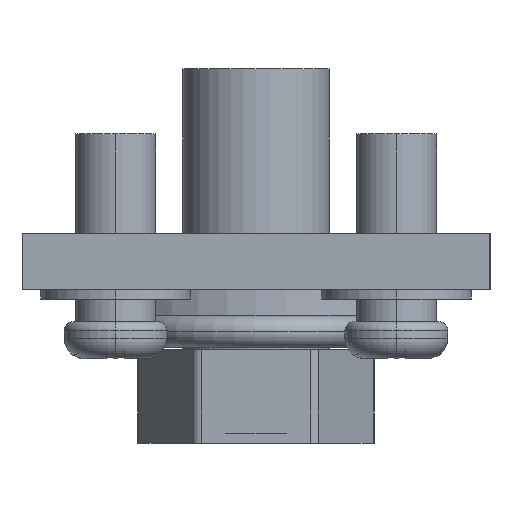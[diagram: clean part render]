
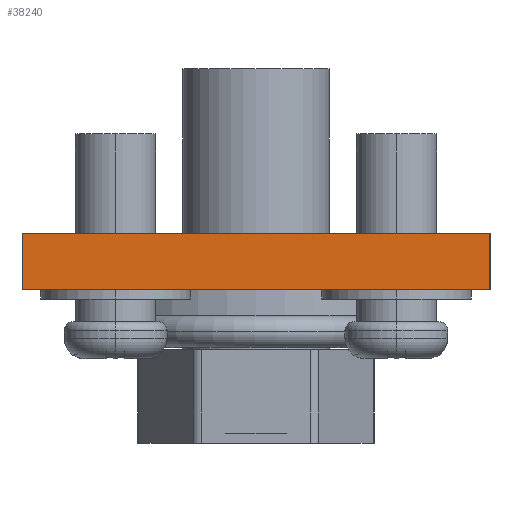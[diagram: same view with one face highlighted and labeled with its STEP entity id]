
A CAD part, left-side view. The second image highlights one B-rep face of the part: STEP entity #38240.
In plain terms, the highlighted planar face has unit normal (-1, 0, 0).
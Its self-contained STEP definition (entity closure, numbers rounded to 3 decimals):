
#33490=CARTESIAN_POINT('',(38.512,66.46,0.));
#33500=DIRECTION('',(0.,-1.,0.));
#33510=VECTOR('',#33500,1.);
#33520=LINE('',#33490,#33510);
#33530=CARTESIAN_POINT('',(38.512,66.46,0.));
#33540=VERTEX_POINT('',#33530);
#33550=CARTESIAN_POINT('',(38.512,41.46,0.));
#33560=VERTEX_POINT('',#33550);
#33570=EDGE_CURVE('',#33540,#33560,#33520,.T.);
#37460=CARTESIAN_POINT('',(38.512,66.46,3.));
#37470=VERTEX_POINT('',#37460);
#37500=CARTESIAN_POINT('',(38.512,66.46,3.));
#37510=DIRECTION('',(0.,0.,-1.));
#37520=VECTOR('',#37510,1.);
#37530=LINE('',#37500,#37520);
#37540=EDGE_CURVE('',#37470,#33540,#37530,.T.);
#37890=CARTESIAN_POINT('',(38.512,41.46,3.));
#37900=DIRECTION('',(0.,0.,-1.));
#37910=VECTOR('',#37900,1.);
#37920=LINE('',#37890,#37910);
#37930=CARTESIAN_POINT('',(38.512,41.46,3.));
#37940=VERTEX_POINT('',#37930);
#37950=EDGE_CURVE('',#37940,#33560,#37920,.T.);
#38080=CARTESIAN_POINT('',(38.512,41.46,0.));
#38090=DIRECTION('',(-1.,0.,0.));
#38100=DIRECTION('',(0.,1.,0.));
#38110=AXIS2_PLACEMENT_3D('',#38080,#38090,#38100);
#38120=PLANE('',#38110);
#38130=ORIENTED_EDGE('',*,*,#37540,.T.);
#38140=CARTESIAN_POINT('',(38.512,66.46,3.));
#38150=DIRECTION('',(0.,-1.,0.));
#38160=VECTOR('',#38150,1.);
#38170=LINE('',#38140,#38160);
#38180=EDGE_CURVE('',#37470,#37940,#38170,.T.);
#38190=ORIENTED_EDGE('',*,*,#38180,.F.);
#38200=ORIENTED_EDGE('',*,*,#37950,.F.);
#38210=ORIENTED_EDGE('',*,*,#33570,.T.);
#38220=EDGE_LOOP('',(#38210,#38200,#38190,#38130));
#38230=FACE_OUTER_BOUND('',#38220,.T.);
#38240=ADVANCED_FACE('',(#38230),#38120,.T.);
